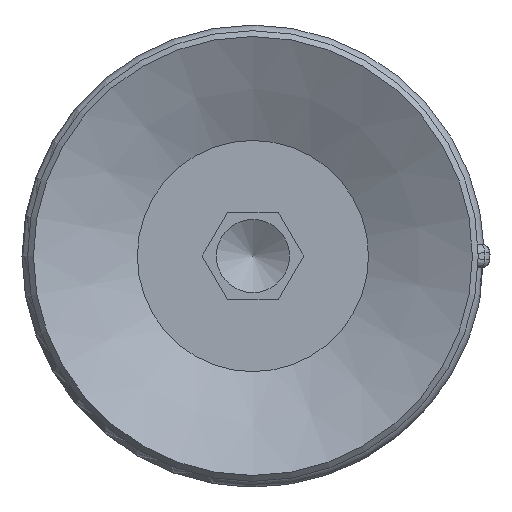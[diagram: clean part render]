
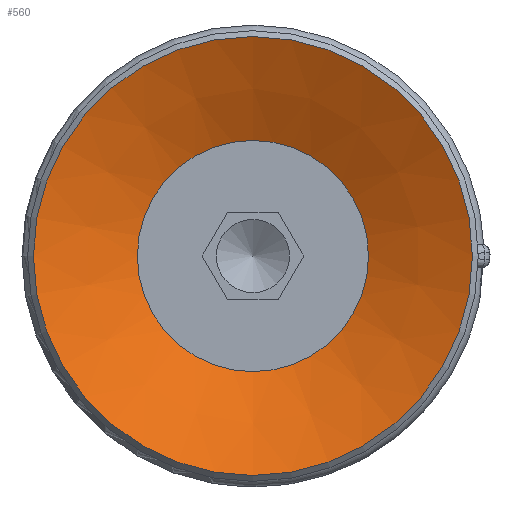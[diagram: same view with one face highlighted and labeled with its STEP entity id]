
A CAD part, front view. The second image highlights one B-rep face of the part: STEP entity #560.
In plain terms, the highlighted conical face has half-angle 64 degrees and reference radius 3.95 mm.
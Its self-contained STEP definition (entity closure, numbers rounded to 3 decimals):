
#560=ADVANCED_FACE('',(#826,#827),#828,.F.);
#826=FACE_BOUND('',#1157,.T.);
#827=FACE_OUTER_BOUND('',#1158,.T.);
#828=CONICAL_SURFACE('',#1159,3.95,1.117);
#1157=EDGE_LOOP('',(#1987));
#1158=EDGE_LOOP('',(#1988));
#1159=AXIS2_PLACEMENT_3D('',#1989,#1990,#1991);
#1987=ORIENTED_EDGE('',*,*,#2304,.F.);
#1988=ORIENTED_EDGE('',*,*,#2305,.T.);
#1989=CARTESIAN_POINT('',(0.0,-29.404,-47.168));
#1990=DIRECTION('',(-0.0,0.,1.0));
#1991=DIRECTION('',(0.0,-1.0,0.));
#2304=EDGE_CURVE('',#2678,#2678,#2679,.T.);
#2305=EDGE_CURVE('',#2680,#2680,#2681,.T.);
#2678=VERTEX_POINT('',#3662);
#2679=CIRCLE('',#3663,3.95);
#2680=VERTEX_POINT('',#3664);
#2681=CIRCLE('',#3665,7.5);
#3662=CARTESIAN_POINT('',(0.0,-33.354,-47.168));
#3663=AXIS2_PLACEMENT_3D('',#4026,#4027,#4028);
#3664=CARTESIAN_POINT('',(0.0,-36.904,-45.437));
#3665=AXIS2_PLACEMENT_3D('',#4029,#4030,#4031);
#4026=CARTESIAN_POINT('',(0.0,-29.404,-47.168));
#4027=DIRECTION('',(0.0,0.,1.0));
#4028=DIRECTION('',(0.0,-1.0,0.));
#4029=CARTESIAN_POINT('',(0.0,-29.404,-45.437));
#4030=DIRECTION('',(0.0,0.,1.0));
#4031=DIRECTION('',(0.0,-1.0,0.));
